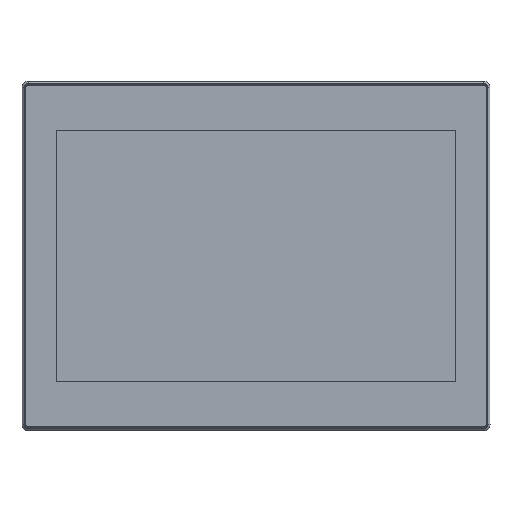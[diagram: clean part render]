
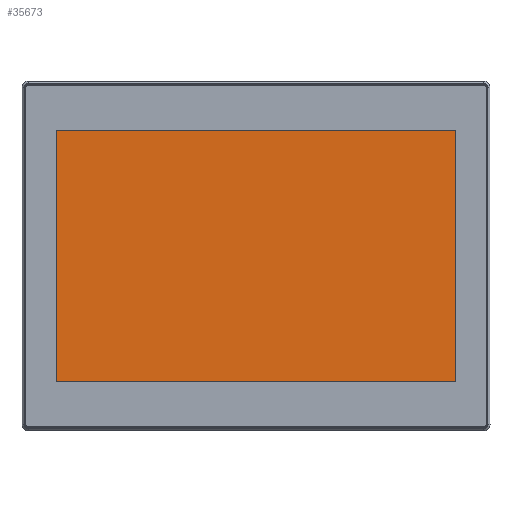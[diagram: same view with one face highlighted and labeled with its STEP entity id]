
A CAD part, top view. The second image highlights one B-rep face of the part: STEP entity #35673.
In plain terms, the highlighted planar face has unit normal (0, 0, 1).
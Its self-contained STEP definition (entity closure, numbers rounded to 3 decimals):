
#1743 = VECTOR ( 'NONE', #42318, 1000. ) ;
#2590 = VERTEX_POINT ( 'NONE', #60338 ) ;
#7176 = DIRECTION ( 'NONE',  ( 1., 0., 0. ) ) ;
#7502 = LINE ( 'NONE', #28970, #31460 ) ;
#7704 = FACE_OUTER_BOUND ( 'NONE', #68516, .T. ) ;
#8570 = EDGE_CURVE ( 'NONE', #47180, #71587, #31399, .T. ) ;
#17388 = ORIENTED_EDGE ( 'NONE', *, *, #70489, .F. ) ;
#17571 = CARTESIAN_POINT ( 'NONE',  ( 154.25, 32.65, 63.84 ) ) ;
#23529 = DIRECTION ( 'NONE',  ( -1., 0., 0. ) ) ;
#24348 = VECTOR ( 'NONE', #23529, 1000. ) ;
#25448 = CARTESIAN_POINT ( 'NONE',  ( 22.54, 115.25, 63.84 ) ) ;
#26635 = ORIENTED_EDGE ( 'NONE', *, *, #70516, .F. ) ;
#28348 = DIRECTION ( 'NONE',  ( 0., 0., -1. ) ) ;
#28970 = CARTESIAN_POINT ( 'NONE',  ( 154.25, 197.85, 63.84 ) ) ;
#29838 = CARTESIAN_POINT ( 'NONE',  ( 22.54, 197.85, 63.84 ) ) ;
#31399 = LINE ( 'NONE', #33225, #45559 ) ;
#31460 = VECTOR ( 'NONE', #7176, 1000. ) ;
#33225 = CARTESIAN_POINT ( 'NONE',  ( 285.96, 115.25, 63.84 ) ) ;
#35673 = ADVANCED_FACE ( 'NONE', ( #7704 ), #73351, .F. ) ;
#40211 = AXIS2_PLACEMENT_3D ( 'NONE', #67662, #28348, #46199 ) ;
#42318 = DIRECTION ( 'NONE',  ( 0., 1., 0. ) ) ;
#43113 = ORIENTED_EDGE ( 'NONE', *, *, #66722, .F. ) ;
#45559 = VECTOR ( 'NONE', #56451, 1000. ) ;
#46199 = DIRECTION ( 'NONE',  ( -1., 0., 0. ) ) ;
#46549 = LINE ( 'NONE', #17571, #24348 ) ;
#47180 = VERTEX_POINT ( 'NONE', #59137 ) ;
#56451 = DIRECTION ( 'NONE',  ( 0., -1., 0. ) ) ;
#59137 = CARTESIAN_POINT ( 'NONE',  ( 285.96, 197.85, 63.84 ) ) ;
#60338 = CARTESIAN_POINT ( 'NONE',  ( 22.54, 32.65, 63.84 ) ) ;
#61899 = LINE ( 'NONE', #25448, #1743 ) ;
#65591 = CARTESIAN_POINT ( 'NONE',  ( 285.96, 32.65, 63.84 ) ) ;
#66165 = ORIENTED_EDGE ( 'NONE', *, *, #8570, .F. ) ;
#66722 = EDGE_CURVE ( 'NONE', #2590, #73073, #61899, .T. ) ;
#67662 = CARTESIAN_POINT ( 'NONE',  ( 154.25, 115.25, 63.84 ) ) ;
#68516 = EDGE_LOOP ( 'NONE', ( #26635, #43113, #17388, #66165 ) ) ;
#70489 = EDGE_CURVE ( 'NONE', #71587, #2590, #46549, .T. ) ;
#70516 = EDGE_CURVE ( 'NONE', #73073, #47180, #7502, .T. ) ;
#71587 = VERTEX_POINT ( 'NONE', #65591 ) ;
#73073 = VERTEX_POINT ( 'NONE', #29838 ) ;
#73351 = PLANE ( 'NONE',  #40211 ) ;
